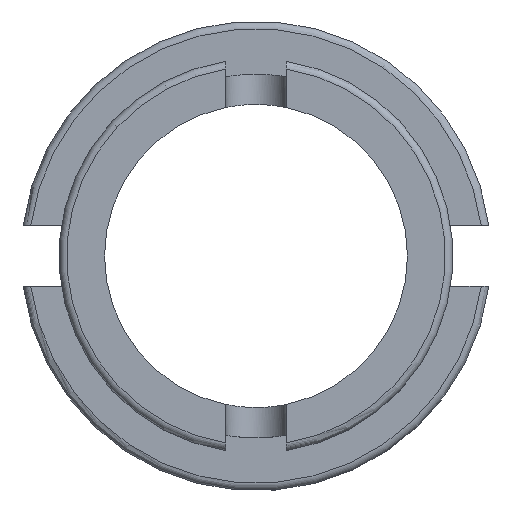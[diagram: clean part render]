
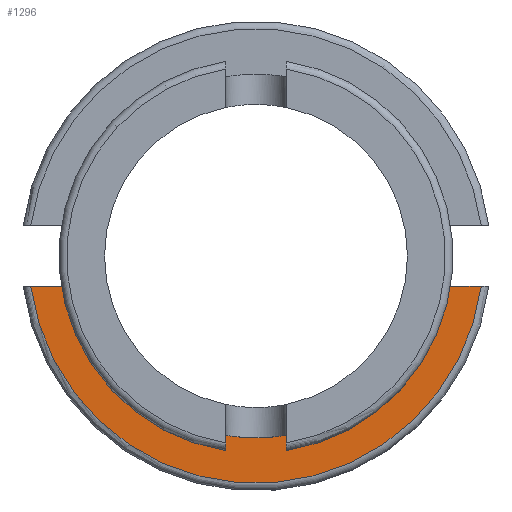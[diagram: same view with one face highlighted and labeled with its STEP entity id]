
A CAD part, left-side view. The second image highlights one B-rep face of the part: STEP entity #1296.
In plain terms, the highlighted planar face has unit normal (-1, 0, 0).
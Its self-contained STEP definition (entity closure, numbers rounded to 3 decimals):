
#116=CIRCLE('',#1378,3.);
#117=CIRCLE('',#1379,2.4);
#160=ORIENTED_EDGE('',*,*,#568,.F.);
#161=ORIENTED_EDGE('',*,*,#569,.T.);
#162=ORIENTED_EDGE('',*,*,#570,.F.);
#163=ORIENTED_EDGE('',*,*,#571,.F.);
#568=EDGE_CURVE('',#772,#773,#908,.T.);
#569=EDGE_CURVE('',#772,#774,#116,.T.);
#570=EDGE_CURVE('',#775,#774,#909,.T.);
#571=EDGE_CURVE('',#773,#775,#117,.T.);
#772=VERTEX_POINT('',#1822);
#773=VERTEX_POINT('',#1823);
#774=VERTEX_POINT('',#1825);
#775=VERTEX_POINT('',#1827);
#908=LINE('',#1821,#1012);
#909=LINE('',#1826,#1013);
#1012=VECTOR('',#1493,1000.);
#1013=VECTOR('',#1496,1000.);
#1116=EDGE_LOOP('',(#160,#161,#162,#163));
#1192=FACE_BOUND('',#1116,.T.);
#1268=PLANE('',#1377);
#1296=ADVANCED_FACE('',(#1192),#1268,.T.);
#1377=AXIS2_PLACEMENT_3D('',#1820,#1491,#1492);
#1378=AXIS2_PLACEMENT_3D('',#1824,#1494,#1495);
#1379=AXIS2_PLACEMENT_3D('',#1828,#1497,#1498);
#1491=DIRECTION('',(-1.,0.,0.));
#1492=DIRECTION('',(0.,0.,1.));
#1493=DIRECTION('',(0.,-1.,0.));
#1494=DIRECTION('',(-1.,0.,0.));
#1495=DIRECTION('',(0.,0.,1.));
#1496=DIRECTION('',(0.,-1.,0.));
#1497=DIRECTION('',(-1.,0.,0.));
#1498=DIRECTION('',(0.,0.,1.));
#1820=CARTESIAN_POINT('',(-0.8,0.,2.4));
#1821=CARTESIAN_POINT('',(-0.8,0.,-0.4));
#1822=CARTESIAN_POINT('',(-0.8,2.973,-0.4));
#1823=CARTESIAN_POINT('',(-0.8,2.366,-0.4));
#1824=CARTESIAN_POINT('',(-0.8,0.,0.));
#1825=CARTESIAN_POINT('',(-0.8,-2.973,-0.4));
#1826=CARTESIAN_POINT('',(-0.8,0.,-0.4));
#1827=CARTESIAN_POINT('',(-0.8,-2.366,-0.4));
#1828=CARTESIAN_POINT('',(-0.8,0.,0.));
